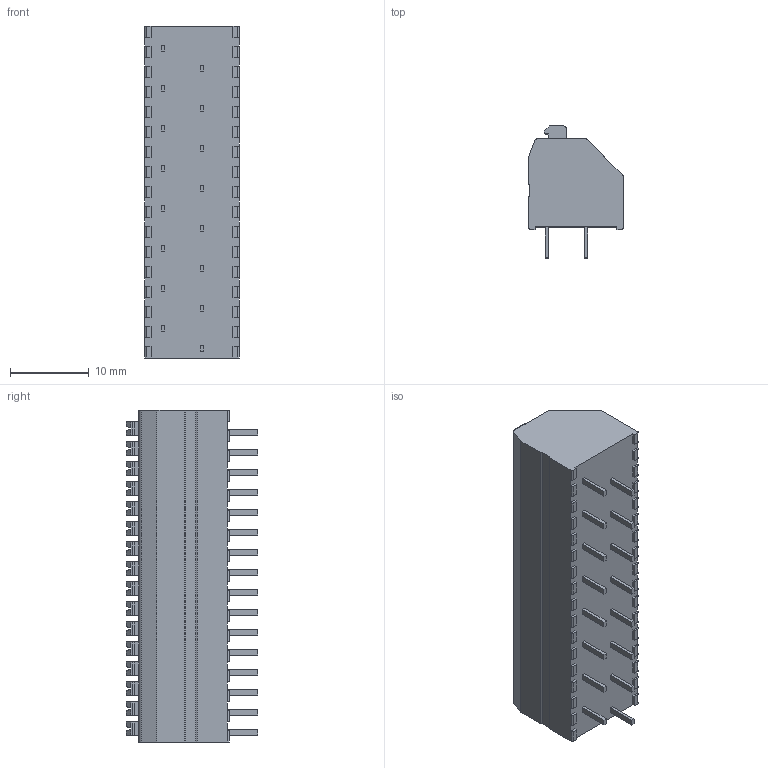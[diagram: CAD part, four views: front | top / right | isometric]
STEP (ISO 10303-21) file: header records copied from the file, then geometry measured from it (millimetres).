
FILE_DESCRIPTION(/* description */ ('STEP AP214'),/* implementation_level */ '2;1');
FILE_NAME(/* name */ '250-1416',/* time_stamp */ '2022-10-03T17:50:41+02:00',/* author */ ('License CC BY-ND 4.0'),/* organization */ ('CADENAS'),/* preprocessor_version */ 'ST-DEVELOPER v18.102',/* originating_system */ 'PARTsolutions',/* authorisation */ ' ');
FILE_SCHEMA (('AUTOMOTIVE_DESIGN {1 0 10303 214 3 1 1}'));
Length unit declared in the file: millimetre
Products named in the file (1): 250-1416
Bounding box: 12 x 16.7 x 42.14 mm (x, y, z)
Volume: 5123.6 mm3; surface area: 2649.2 mm2
Topology: 1 solids, 1 shells, 725 faces, 1977 edges, 1286 vertices
Faces by surface type: plane 558, cylinder 135, cone 32
Entity records: 22679 total; most frequent: CARTESIAN_POINT 3989, ORIENTED_EDGE 3954, DIRECTION 3795, EDGE_CURVE 1977, LINE 1611, VECTOR 1611, VERTEX_POINT 1286, AXIS2_PLACEMENT_3D 1092
